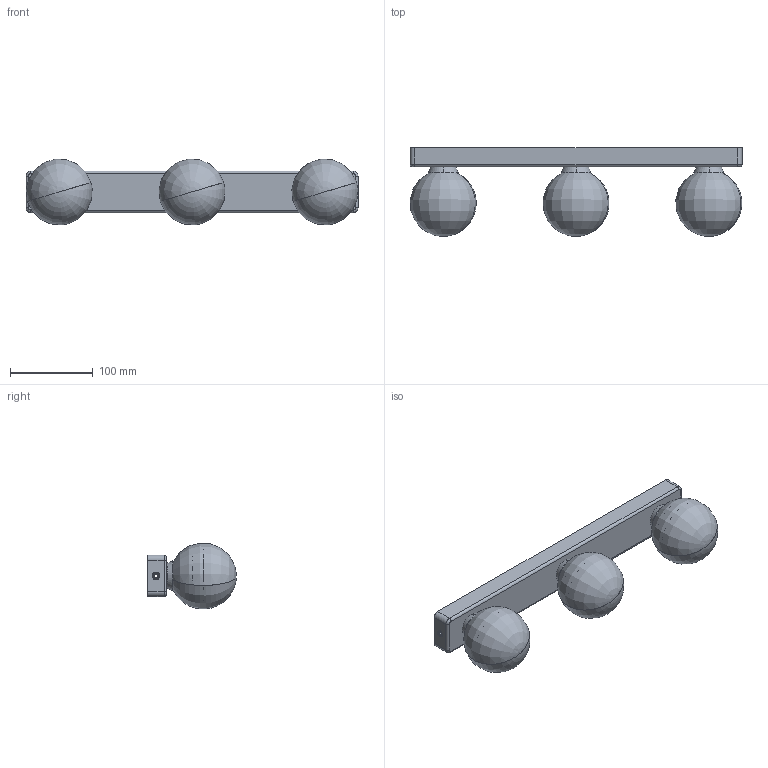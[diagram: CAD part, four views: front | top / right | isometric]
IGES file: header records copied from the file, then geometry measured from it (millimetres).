
Start section: SolidWorks IGES file using analytic representation for surfaces
Global section: file name: Z:\Modele 3D_WWW\_KOLEKCJE_WWW\BRAZOS\BRAZOS-6951-8056\BRAZOS-6951-8056.IGS; native system: SolidWorks 2021; preprocessor: SolidWorks 2021; author: gabriela.tworek; date: 210716.140959; units: millimetre
Bounding box: 400 x 106.85 x 79.22 mm (x, y, z)
Surface area: 197346 mm2 (no closed solid volume)
Topology: 0 solids, 0 shells, 329 faces, 4090 edges, 4075 vertices
Faces by surface type: revolution 201, bspline 128
